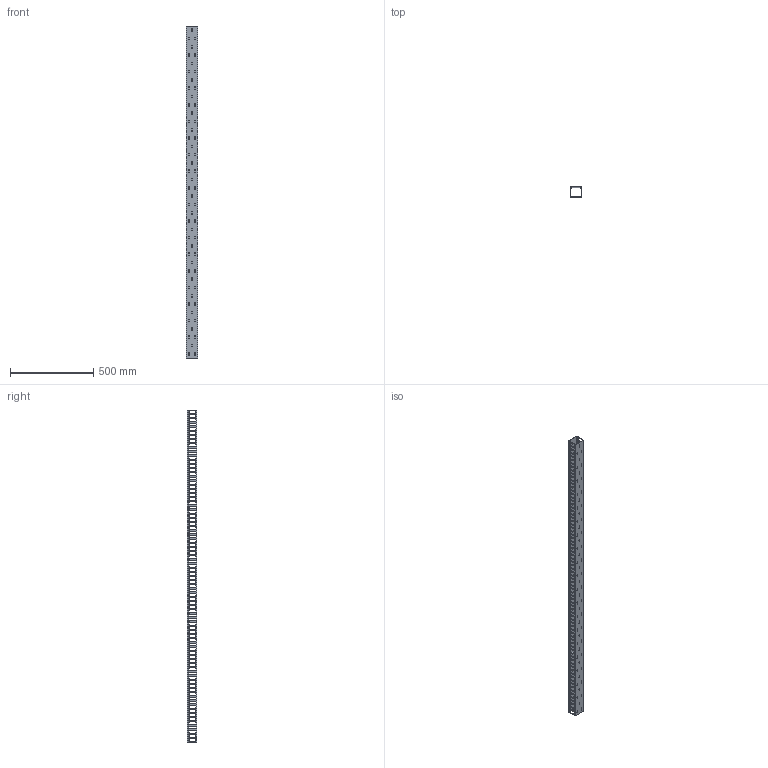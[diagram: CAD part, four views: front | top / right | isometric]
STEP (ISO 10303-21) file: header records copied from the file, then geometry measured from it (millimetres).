
FILE_DESCRIPTION (( 'STEP AP214' ), '1' );
FILE_NAME ('KD-76-20-LL.STEP', '2020-02-19T00:58:12', ( '' ), ( '' ), 'SwSTEP 2.0', 'SolidWorks 2018', '' );
FILE_SCHEMA (( 'AUTOMOTIVE_DESIGN' ));
Length unit declared in the file: millimetre
Products named in the file (3): KD-76-20-LL-body; KD-76-20-LL; KD-74-20-cover
Assembly tree (2 placements, depth 2):
  KD-76-20-LL
    KD-76-20-LL-body
    KD-74-20-cover
Bounding box: 70 x 60.17 x 2000 mm (x, y, z)
Volume: 771335.9 mm3; surface area: 979943.1 mm2
Topology: 2 solids, 2 shells, 1583 faces, 4737 edges, 3158 vertices
Faces by surface type: cylinder 797, plane 786
Entity records: 54735 total; most frequent: DIRECTION 9507, CARTESIAN_POINT 9483, ORIENTED_EDGE 9474, EDGE_CURVE 4737, AXIS2_PLACEMENT_3D 3182, VERTEX_POINT 3158, VECTOR 3143, LINE 3143
